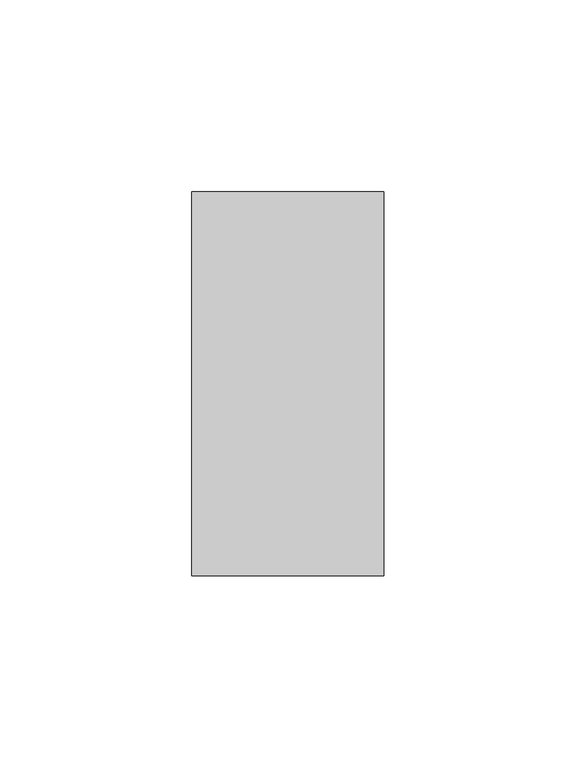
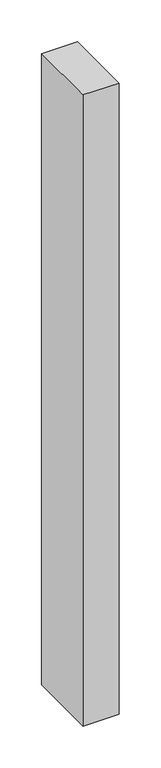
"""IFC4 building model written with IfcOpenShell, lengths in millimetres: member geometry, Прямоугольный импост : 50х100."""

import ifcopenshell
import ifcopenshell.guid

model = None  # the IFC model being written
_history = None  # IfcOwnerHistory: only IFC2X3 demands one
_inside = {}  # id of a spatial element -> (the spatial element, [elements in it])
_under = {}  # id of a project, library or spatial element -> (it, [spatial elements below it])
_declared = {}  # id of a project -> (the project, [libraries it declares])
_typed = {}  # id of a type object -> (the type object, [elements of that type])
_made_of = {}  # id of a material, layer set ... -> (it, [elements and type objects made of it])


def new_model(schema):
    """Start an empty IFC model of exactly this schema.

    Asked for "IFC4X3", IfcOpenShell would pick the latest addendum, in which some entities
    have other attributes; the version numbers below select the first issue.
    IFC2X3 requires an IfcOwnerHistory on every rooted entity: one is made here for all.
    """
    global model, _history
    if schema == "IFC4X3":
        model = ifcopenshell.file(schema_version=(4, 3, 0, 0))
    else:
        model = ifcopenshell.file(schema=schema)
    _inside.clear()
    _under.clear()
    _declared.clear()
    _typed.clear()
    _made_of.clear()
    _history = None
    if model.schema == "IFC2X3":
        org = make("IfcOrganization", Name="unknown")
        user = make(
            "IfcPersonAndOrganization",
            ThePerson=make("IfcPerson", FamilyName="unknown"),
            TheOrganization=org,
        )
        app = make(
            "IfcApplication",
            ApplicationDeveloper=org,
            Version="unknown",
            ApplicationFullName="unknown",
            ApplicationIdentifier="unknown",
        )
        _history = make(
            "IfcOwnerHistory",
            OwningUser=user,
            OwningApplication=app,
            ChangeAction="ADDED",
            CreationDate=0,
        )
    return model


def make(cls, **values):
    """One entity of the class cls with the attributes given. An attribute that is None is left unset."""
    return model.create_entity(
        cls, **{name: value for name, value in values.items() if value is not None}
    )


def rooted(cls, **values):
    """An entity with a GlobalId (a new one), such as an element, a storey or a relation."""
    return make(cls, GlobalId=ifcopenshell.guid.new(), OwnerHistory=_history, **values)


def si_unit(unit_type, name, prefix=None):
    """IfcSIUnit, for example si_unit("LENGTHUNIT", "METRE", prefix="MILLI")."""
    return make("IfcSIUnit", UnitType=unit_type, Prefix=prefix, Name=name)


def assignment(units):
    """IfcUnitAssignment: the units of a project."""
    return None if units is None else make("IfcUnitAssignment", Units=units)


def point(xyz):
    """IfcCartesianPoint."""
    return None if xyz is None else make("IfcCartesianPoint", Coordinates=xyz)


def direction(xyz):
    """IfcDirection."""
    return None if xyz is None else make("IfcDirection", DirectionRatios=xyz)


def frame(location, z_axis=None, x_axis=None):
    """IfcAxis2Placement3D, a coordinate frame: its origin and axes. An axis left out is left unset."""
    return make(
        "IfcAxis2Placement3D",
        Location=point(location),
        Axis=direction(z_axis),
        RefDirection=direction(x_axis),
    )


def origin():
    """The frame at (0, 0, 0) with its axes left unset."""
    return frame((0.0, 0.0, 0.0))


def place(relative_to, where):
    """IfcLocalPlacement: puts the frame where relative to a parent placement (None: the world)."""
    return make(
        "IfcLocalPlacement", PlacementRelTo=relative_to, RelativePlacement=where
    )


def context(
    kind, dimensions, precision=None, world=None, true_north=None, identifier=None
):
    """IfcGeometricRepresentationContext, for example the 3D "Model" context."""
    return make(
        "IfcGeometricRepresentationContext",
        ContextIdentifier=identifier,
        ContextType=kind,
        CoordinateSpaceDimension=dimensions,
        Precision=precision,
        WorldCoordinateSystem=world,
        TrueNorth=true_north,
    )


def project(units=None, contexts=None):
    """IfcProject with its units and contexts."""
    return rooted(
        "IfcProject",
        Name="project",
        RepresentationContexts=contexts,
        UnitsInContext=assignment(units),
    )


def spatial(cls, under=None, at=None, **own):
    """A site, building, storey or space (cls), placed at a placement, below another one or the project."""
    s = rooted(cls, ObjectPlacement=at, **own)
    if under is not None:
        _under.setdefault(under.id(), (under, []))[1].append(s)
    return s


def polyline(points):
    """IfcPolyline through the points."""
    return make("IfcPolyline", Points=[point(p) for p in points])


def outline(outer, holes=None, kind="AREA"):
    """IfcArbitraryClosedProfileDef: a profile drawn as a closed curve; with holes, ...WithVoids."""
    if holes is None:
        return make("IfcArbitraryClosedProfileDef", ProfileType=kind, OuterCurve=outer)
    return make(
        "IfcArbitraryProfileDefWithVoids",
        ProfileType=kind,
        OuterCurve=outer,
        InnerCurves=holes,
    )


def extrude(swept, where, along, depth):
    """IfcExtrudedAreaSolid: the profile swept, set in the frame where, extruded along a direction by depth."""
    return make(
        "IfcExtrudedAreaSolid",
        SweptArea=swept,
        Position=where,
        ExtrudedDirection=direction(along),
        Depth=depth,
    )


def shape(context_of_items, identifier, shape_type, items):
    """IfcShapeRepresentation: the items that make up one representation, for example the "Body"."""
    return make(
        "IfcShapeRepresentation",
        ContextOfItems=context_of_items,
        RepresentationIdentifier=identifier,
        RepresentationType=shape_type,
        Items=items,
    )


def source(mapping_origin, context_of_items, identifier, shape_type, items):
    """IfcRepresentationMap: a shape defined once, which mapped items show again and again."""
    return make(
        "IfcRepresentationMap",
        MappingOrigin=mapping_origin,
        MappedRepresentation=shape(context_of_items, identifier, shape_type, items),
    )


def transform(
    local_origin,
    x_axis=None,
    y_axis=None,
    z_axis=None,
    scale=None,
    scale2=None,
    scale3=None,
    uniform=True,
):
    """IfcCartesianTransformationOperator3D, or its non-uniform kind. x_axis, y_axis, z_axis: its Axis1, 2, 3."""
    if uniform:
        return make(
            "IfcCartesianTransformationOperator3D",
            Axis1=direction(x_axis),
            Axis2=direction(y_axis),
            LocalOrigin=point(local_origin),
            Scale=scale,
            Axis3=direction(z_axis),
        )
    return make(
        "IfcCartesianTransformationOperator3DnonUniform",
        Axis1=direction(x_axis),
        Axis2=direction(y_axis),
        LocalOrigin=point(local_origin),
        Scale=scale,
        Axis3=direction(z_axis),
        Scale2=scale2,
        Scale3=scale3,
    )


def mapped(mapping_source, mapping_target):
    """IfcMappedItem: shows the shape of a source again, moved by a transform."""
    return make(
        "IfcMappedItem", MappingSource=mapping_source, MappingTarget=mapping_target
    )


def made_of(thing, what):
    """Note that an element or type object is made of a material, layer set ...; save() writes the relation."""
    if what is not None:
        _made_of.setdefault(what.id(), (what, []))[1].append(thing)
    return thing


def element(
    cls,
    number,
    at=None,
    inside=None,
    cuts=None,
    type_object=None,
    material=None,
    context=None,
    identifier="Body",
    shape_type=None,
    held_by="IfcProductDefinitionShape",
    body=None,
    shapes=None,
    **own,
):
    """One element of the class cls, such as IfcWall. Its Tag is "e" and its number.

    at: its placement. inside: the storey or other place that contains it. cuts: it is an
    opening in that element (IfcRelVoidsElement). A single representation is given by context,
    identifier, shape_type and body (its items); several are given by shapes. held_by: the class
    of the entity that holds the representations. save() writes the other relations.
    """
    e = rooted(cls, Tag="e%d" % number, ObjectPlacement=at, **own)
    if body is not None:
        shapes = [shape(context, identifier, shape_type, body)]
    if shapes is not None:
        e.Representation = make(held_by, Representations=shapes)
    if inside is not None:
        _inside.setdefault(inside.id(), (inside, []))[1].append(e)
    if cuts is not None:
        rooted(
            "IfcRelVoidsElement", RelatingBuildingElement=cuts, RelatedOpeningElement=e
        )
    if type_object is not None:
        _typed.setdefault(type_object.id(), (type_object, []))[1].append(e)
    return made_of(e, material)


def aggregate(whole, parts):
    """IfcRelAggregates: a whole, such as a stair, and the parts it consists of."""
    return rooted("IfcRelAggregates", RelatingObject=whole, RelatedObjects=parts)


def save(model, path):
    """Write the relations noted so far, then the file.

    IfcRelAggregates (storeys below a building ...), IfcRelContainedInSpatialStructure (elements
    in a storey), IfcRelDefinesByType, IfcRelAssociatesMaterial and IfcRelDeclares: one each for
    every whole, place, type object, material and project.
    """
    for whole, parts in _under.values():
        aggregate(whole, parts)
    for where, things in _inside.values():
        rooted(
            "IfcRelContainedInSpatialStructure",
            RelatedElements=things,
            RelatingStructure=where,
        )
    for kind, things in _typed.values():
        rooted("IfcRelDefinesByType", RelatedObjects=things, RelatingType=kind)
    for what, things in _made_of.values():
        rooted("IfcRelAssociatesMaterial", RelatedObjects=things, RelatingMaterial=what)
    for by, libraries in _declared.values():
        rooted("IfcRelDeclares", RelatingContext=by, RelatedDefinitions=libraries)
    model.write(path)


def member_b07d091a(model_context):
    return source(origin(), model_context, "Body", "SweptSolid", [
        extrude(outline(polyline([(0.0, 50.0), (0.0, -50.0), (-50.0, -50.0), (-50.0, 50.0), (0.0, 50.0)])), frame((0.0, 0.0, -925.0), z_axis=(0.0, 0.0, 1.0), x_axis=(1.0, 0.0, 0.0)), (0.0, 0.0, 1.0), 925.0),
    ])


if __name__ == "__main__":
    model = new_model("IFC4")
    model_context = context("Model", 3, world=origin())
    ifc_project = project(units=[si_unit("LENGTHUNIT", "METRE", prefix="MILLI")], contexts=[model_context])
    site = spatial("IfcSite", under=ifc_project)
    building = spatial("IfcBuilding", under=site)
    placement = place(None, origin())
    member_shape = member_b07d091a(model_context)
    element("IfcMember", 1, ObjectType="Прямоугольный импост : 50х100", at=placement, inside=building, context=model_context, shape_type="MappedRepresentation", body=[
        mapped(member_shape, transform((0.0, 0.0, 0.0), x_axis=(1.0, 0.0, 0.0), y_axis=(0.0, 1.0, 0.0), z_axis=(0.0, 0.0, 1.0))),
    ])
    save(model, "model.ifc")
